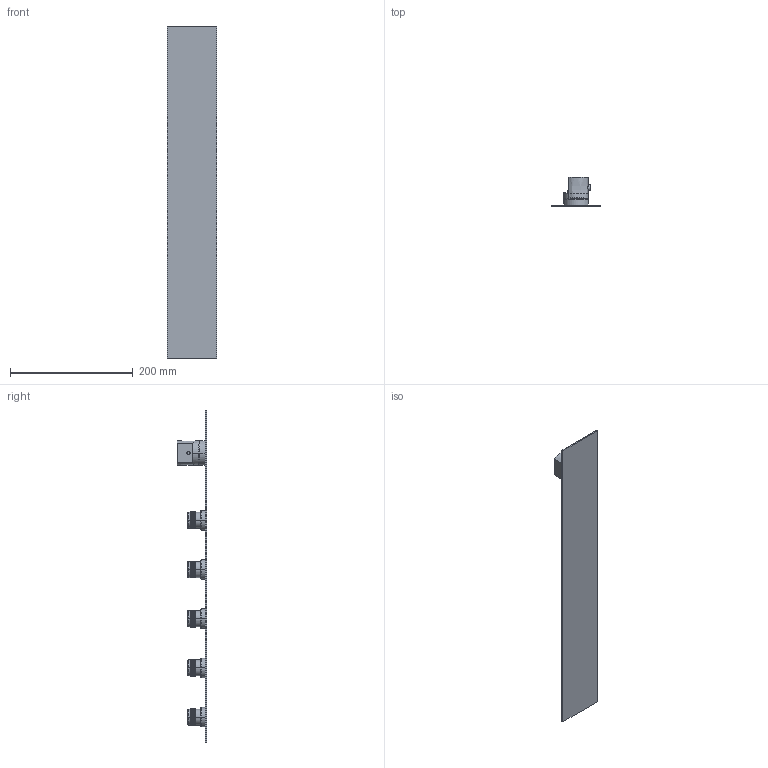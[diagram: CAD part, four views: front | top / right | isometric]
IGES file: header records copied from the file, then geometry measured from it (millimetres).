
Start section:  PTC IGES file: 89600v5.igs
Global section: file name: 89600v5.igs; native system: Creo Parametric by PTC Inc.; preprocessor: 2022014; author: carloff; organization: Unknown; date: 20251124.171713; units: millimetre
Bounding box: 80 x 47.4 x 540 mm (x, y, z)
Surface area: 115107.4 mm2 (no closed solid volume)
Topology: 0 solids, 0 shells, 8257 faces, 41094 edges, 41082 vertices
Faces by surface type: bspline 6440, revolution 1817
